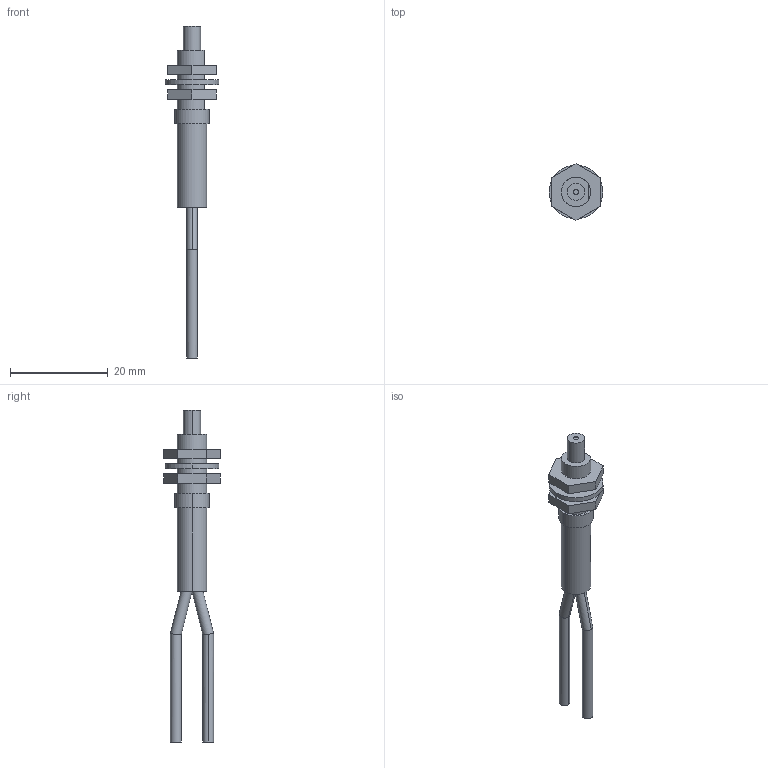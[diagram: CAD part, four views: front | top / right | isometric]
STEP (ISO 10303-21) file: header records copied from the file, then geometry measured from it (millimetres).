
FILE_DESCRIPTION (( 'STEP AP203' ), '1' );
FILE_NAME ('FD-FM2.STEP', '2005-09-04T09:30:06', ( '川島良英' ), ( ' ' ), 'SwSTEP 2.0', 'SolidWorks 2004251', '' );
FILE_SCHEMA (( 'CONFIG_CONTROL_DESIGN' ));
Length unit declared in the file: millimetre
Products named in the file (1): FD-FM2
Bounding box: 11 x 11.55 x 67.8 mm (x, y, z)
Volume: 1506.2 mm3; surface area: 1806.1 mm2
Topology: 4 solids, 4 shells, 55 faces, 120 edges, 79 vertices
Faces by surface type: cylinder 28, plane 27
Entity records: 1594 total; most frequent: CARTESIAN_POINT 297, DIRECTION 259, ORIENTED_EDGE 240, EDGE_CURVE 120, AXIS2_PLACEMENT_3D 97, VERTEX_POINT 79, EDGE_LOOP 67, VECTOR 65
